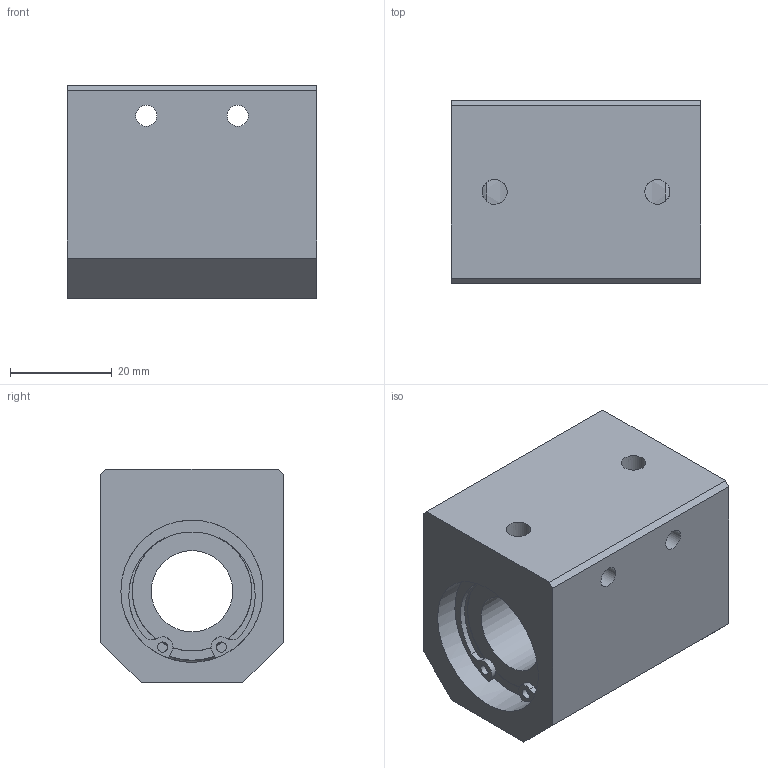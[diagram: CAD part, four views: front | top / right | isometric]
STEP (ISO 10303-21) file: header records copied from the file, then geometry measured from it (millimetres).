
FILE_DESCRIPTION((''),'2;1');
FILE_NAME('D:\製品 (図面)\カタログ用3D\リニアベアリング関連(改)\STEP形式\CH\CH16.stp','2010-01-25T09:34:11',('Tsuchiya'),(''),'Autodesk Inventor 10','Autodesk Inventor 10','');
FILE_SCHEMA(('AUTOMOTIVE_DESIGN { 1 0 10303 214 1 1 1 1 }'));
Length unit declared in the file: millimetre
Products named in the file (1): CH16
Bounding box: 49 x 36 x 42 mm (x, y, z)
Volume: 54305 mm3; surface area: 15105.8 mm2
Topology: 1 solids, 3 shells, 75 faces, 197 edges, 122 vertices
Faces by surface type: plane 33, bspline 22, cylinder 18, torus 2
Full cylindrical faces by diameter (mm): 2 x2, 16 x1, 23.5 x2, 26.6 x2, 28 x4
Entity records: 2428 total; most frequent: CARTESIAN_POINT 720, DIRECTION 360, ORIENTED_EDGE 316, EDGE_CURVE 158, AXIS2_PLACEMENT_3D 154, EDGE_LOOP 118, VERTEX_POINT 106, CIRCLE 100
